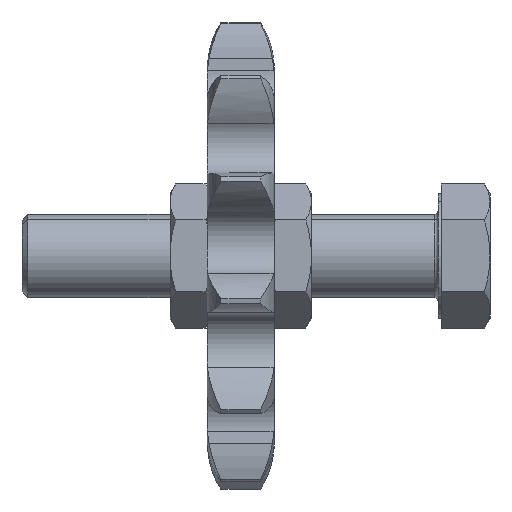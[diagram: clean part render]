
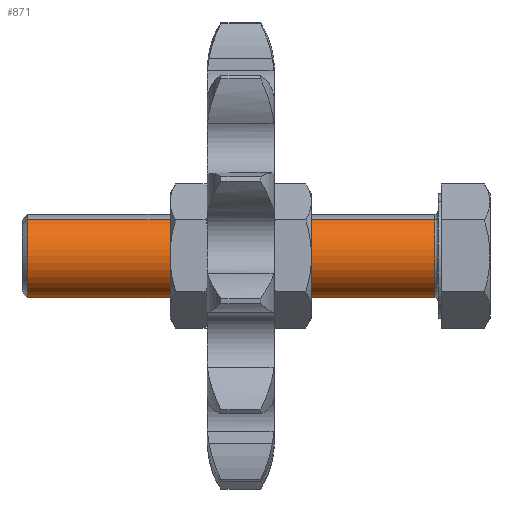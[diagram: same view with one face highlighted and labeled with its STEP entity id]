
A CAD part, top view. The second image highlights one B-rep face of the part: STEP entity #871.
In plain terms, the highlighted cylindrical face has radius 10 mm (diameter 20 mm), a partial arc.
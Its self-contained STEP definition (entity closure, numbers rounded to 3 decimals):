
#118 = CARTESIAN_POINT ( 'NONE',  ( 13.3, 0., 0. ) ) ;
#576 = DIRECTION ( 'NONE',  ( 0., 0., -1. ) ) ;
#581 = DIRECTION ( 'NONE',  ( -1., 0., 0. ) ) ;
#721 = AXIS2_PLACEMENT_3D ( 'NONE', #118, #3891, #576 ) ;
#772 = CARTESIAN_POINT ( 'NONE',  ( 0., 0., -10. ) ) ;
#802 = ORIENTED_EDGE ( 'NONE', *, *, #3145, .T. ) ;
#820 = VERTEX_POINT ( 'NONE', #866 ) ;
#866 = CARTESIAN_POINT ( 'NONE',  ( 13.3, 0., -10. ) ) ;
#871 = ADVANCED_FACE ( 'NONE', ( #5899 ), #5171, .T. ) ;
#1121 = CARTESIAN_POINT ( 'NONE',  ( 13.3, 0., 10. ) ) ;
#1497 = CARTESIAN_POINT ( 'NONE',  ( 0., 0., 0. ) ) ;
#1769 = EDGE_CURVE ( 'NONE', #4359, #3765, #2857, .T. ) ;
#1855 = ORIENTED_EDGE ( 'NONE', *, *, #3100, .F. ) ;
#1860 = AXIS2_PLACEMENT_3D ( 'NONE', #3916, #5251, #2414 ) ;
#2383 = EDGE_CURVE ( 'NONE', #3765, #5377, #4634, .T. ) ;
#2402 = ORIENTED_EDGE ( 'NONE', *, *, #2383, .T. ) ;
#2414 = DIRECTION ( 'NONE',  ( 0., 0., 1. ) ) ;
#2857 = CIRCLE ( 'NONE', #1860, 10. ) ;
#3100 = EDGE_CURVE ( 'NONE', #4359, #820, #5006, .T. ) ;
#3145 = EDGE_CURVE ( 'NONE', #5377, #820, #5385, .T. ) ;
#3765 = VERTEX_POINT ( 'NONE', #4326 ) ;
#3891 = DIRECTION ( 'NONE',  ( 1., 0., 0. ) ) ;
#3916 = CARTESIAN_POINT ( 'NONE',  ( 111.126, 0., 0. ) ) ;
#4326 = CARTESIAN_POINT ( 'NONE',  ( 111.126, 0., 10. ) ) ;
#4343 = DIRECTION ( 'NONE',  ( 0., 0., 1. ) ) ;
#4359 = VERTEX_POINT ( 'NONE', #5683 ) ;
#4437 = DIRECTION ( 'NONE',  ( -1., 0., 0. ) ) ;
#4634 = LINE ( 'NONE', #6074, #4705 ) ;
#4705 = VECTOR ( 'NONE', #5630, 1000. ) ;
#4933 = VECTOR ( 'NONE', #4437, 1000. ) ;
#5006 = LINE ( 'NONE', #772, #4933 ) ;
#5171 = CYLINDRICAL_SURFACE ( 'NONE', #5232, 10. ) ;
#5232 = AXIS2_PLACEMENT_3D ( 'NONE', #1497, #581, #4343 ) ;
#5238 = EDGE_LOOP ( 'NONE', ( #1855, #5252, #2402, #802 ) ) ;
#5251 = DIRECTION ( 'NONE',  ( -1., 0., 0. ) ) ;
#5252 = ORIENTED_EDGE ( 'NONE', *, *, #1769, .T. ) ;
#5377 = VERTEX_POINT ( 'NONE', #1121 ) ;
#5385 = CIRCLE ( 'NONE', #721, 10. ) ;
#5630 = DIRECTION ( 'NONE',  ( -1., 0., 0. ) ) ;
#5683 = CARTESIAN_POINT ( 'NONE',  ( 111.126, 0., -10. ) ) ;
#5899 = FACE_OUTER_BOUND ( 'NONE', #5238, .T. ) ;
#6074 = CARTESIAN_POINT ( 'NONE',  ( 0., 0., 10. ) ) ;
